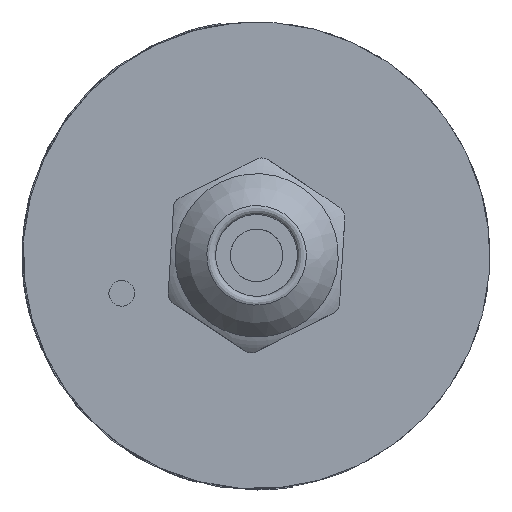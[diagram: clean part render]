
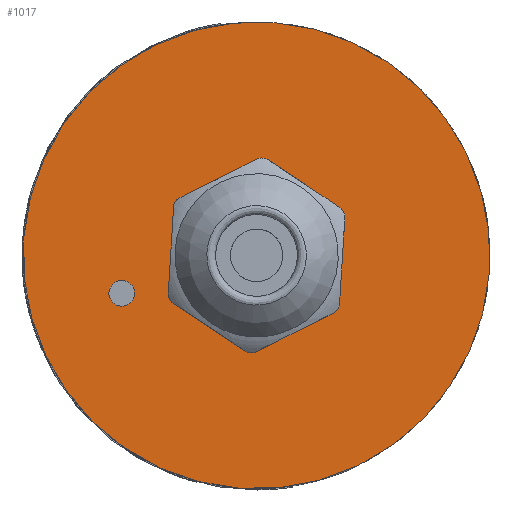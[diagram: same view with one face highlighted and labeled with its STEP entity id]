
A CAD part, left-side view. The second image highlights one B-rep face of the part: STEP entity #1017.
In plain terms, the highlighted planar face has unit normal (-1, 0, 0) as drawn and (1, 0, 0) by its records, which use the part's own axes.
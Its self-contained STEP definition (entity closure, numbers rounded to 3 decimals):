
#1017 = ADVANCED_FACE( '', ( #2128, #2129, #2130 ), #2131, .T. );
#2128 = FACE_BOUND( '', #3375, .T. );
#2129 = FACE_BOUND( '', #3376, .T. );
#2130 = FACE_OUTER_BOUND( '', #3377, .T. );
#2131 = PLANE( '', #3378 );
#3375 = EDGE_LOOP( '', ( #5233 ) );
#3376 = EDGE_LOOP( '', ( #5234 ) );
#3377 = EDGE_LOOP( '', ( #5235 ) );
#3378 = AXIS2_PLACEMENT_3D( '', #5236, #5237, #5238 );
#5233 = ORIENTED_EDGE( '', *, *, #6142, .F. );
#5234 = ORIENTED_EDGE( '', *, *, #6690, .F. );
#5235 = ORIENTED_EDGE( '', *, *, #6708, .T. );
#5236 = CARTESIAN_POINT( '', ( 0., 0., 0. ) );
#5237 = DIRECTION( '', ( 1., 0., 0. ) );
#5238 = DIRECTION( '', ( 0., 0., -1. ) );
#6142 = EDGE_CURVE( '', #6984, #6984, #6985, .T. );
#6690 = EDGE_CURVE( '', #7843, #7843, #7844, .T. );
#6708 = EDGE_CURVE( '', #7870, #7870, #7871, .T. );
#6984 = VERTEX_POINT( '', #8320 );
#6985 = CIRCLE( '', #8321, 5.4 );
#7843 = VERTEX_POINT( '', #10671 );
#7844 = CIRCLE( '', #10672, 1.1 );
#7870 = VERTEX_POINT( '', #10753 );
#7871 = CIRCLE( '', #10754, 20. );
#8320 = CARTESIAN_POINT( '', ( 0., 5.4, 0. ) );
#8321 = AXIS2_PLACEMENT_3D( '', #11318, #11319, #11320 );
#10671 = CARTESIAN_POINT( '', ( 0., 0., 10.9 ) );
#10672 = AXIS2_PLACEMENT_3D( '', #12050, #12051, #12052 );
#10753 = CARTESIAN_POINT( '', ( 0., 0., -20. ) );
#10754 = AXIS2_PLACEMENT_3D( '', #12074, #12075, #12076 );
#11318 = CARTESIAN_POINT( '', ( 0., 0., 0. ) );
#11319 = DIRECTION( '', ( 1., 0., 0. ) );
#11320 = DIRECTION( '', ( 0., 1., 0. ) );
#12050 = CARTESIAN_POINT( '', ( 0., 0., 12. ) );
#12051 = DIRECTION( '', ( 1., 0., 0. ) );
#12052 = DIRECTION( '', ( 0., 0., -1. ) );
#12074 = CARTESIAN_POINT( '', ( 0., 0., 0. ) );
#12075 = DIRECTION( '', ( 1., 0., 0. ) );
#12076 = DIRECTION( '', ( 0., 0., -1. ) );
